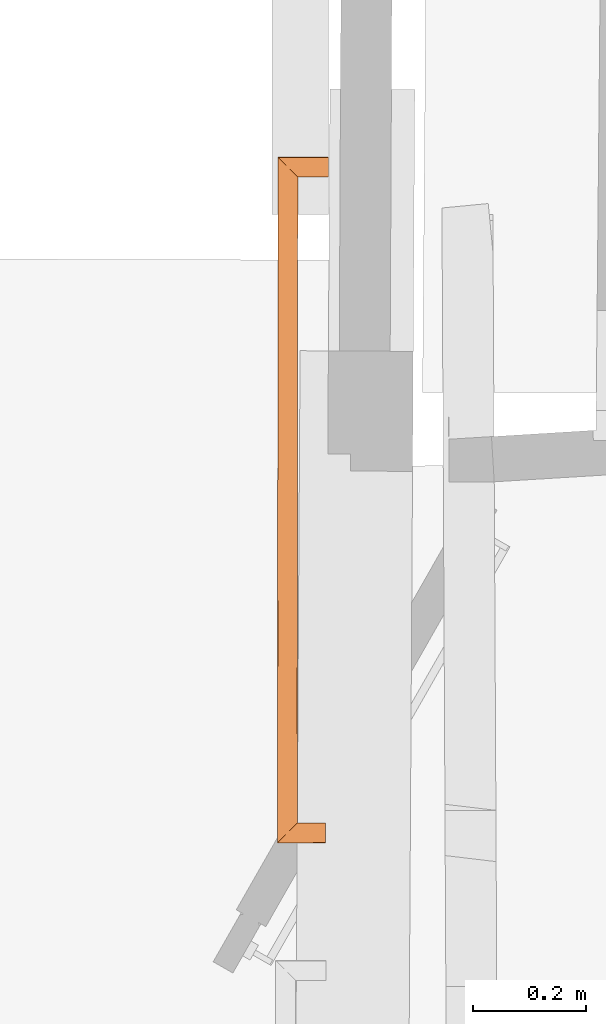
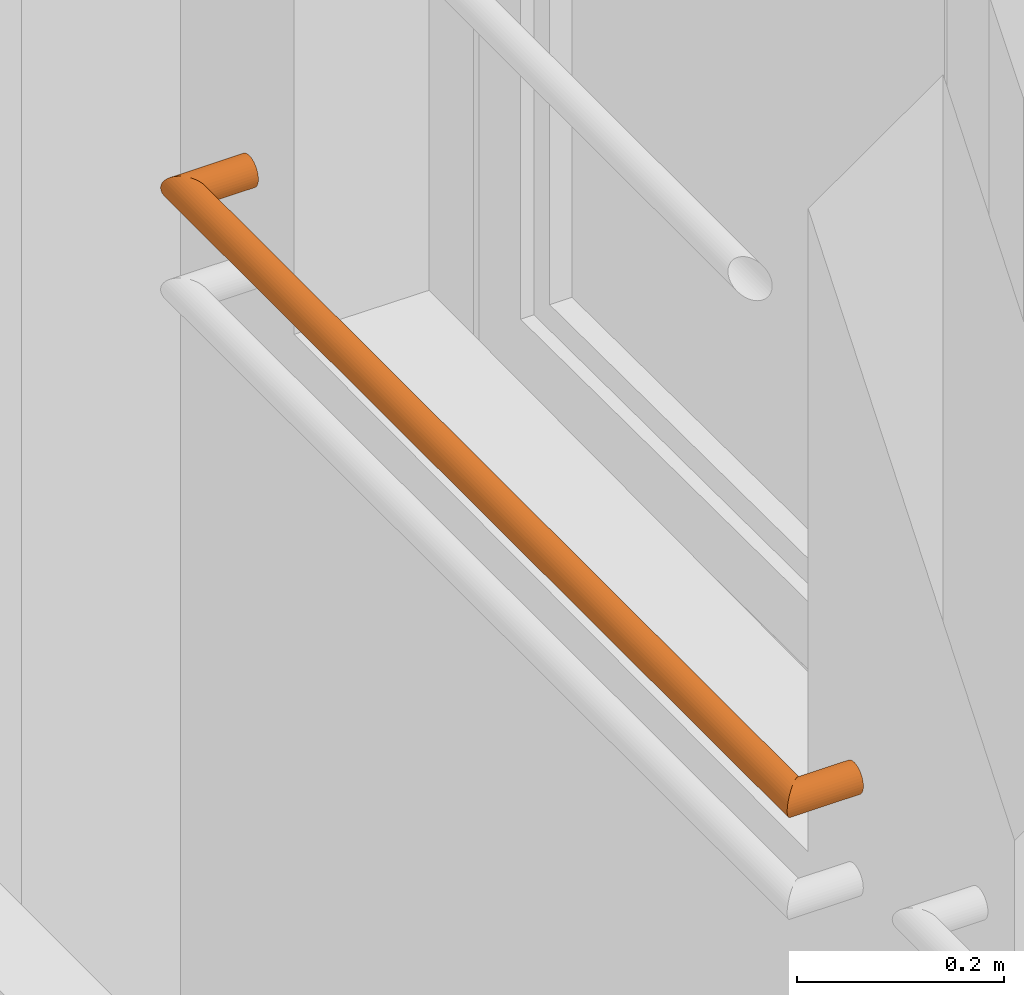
# One storey, part 92 of 97: 1 proxy.
"""IFC2X3 building model written with IfcOpenShell, lengths in centimetres."""

from ifc_helpers import new_model, entity, si_unit, converted_unit, direction, origin, origin_with_axes, place, context, subcontext, project, spatial, faceted_brep, material, type_object, element, save


model = new_model("IFC2X3")

# Units and contexts
model_context = context("Model", 3, precision=0.0001, world=origin(), true_north=direction((0.225632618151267, 0.974212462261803, 0.0)))
body_context = subcontext(model_context, "Body", "Model", "MODEL_VIEW")
ifc_project = project(units=[si_unit("LENGTHUNIT", "METRE", prefix="CENTI"), si_unit("AREAUNIT", "SQUARE_METRE", prefix="CENTI"), si_unit("VOLUMEUNIT", "CUBIC_METRE", prefix="CENTI"), converted_unit("PLANEANGLEUNIT", "DEGREE", entity("IfcRatioMeasure", 0.0174532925), si_unit("PLANEANGLEUNIT", "RADIAN"), dimensions=[0, 0, 0, 0, 0, 0, 0])], contexts=[model_context])

# Site, building, storey
site_placement = place(None, origin_with_axes())
site = spatial("IfcSite", under=ifc_project, at=site_placement, Name="Default Site", CompositionType="ELEMENT")
building_placement = place(site_placement, origin_with_axes())
building = spatial("IfcBuilding", under=site, at=building_placement, Name="Default Building", CompositionType="ELEMENT")
storey_placement = place(building_placement, origin_with_axes())
storey = spatial("IfcBuildingStorey", under=building, at=storey_placement, Name="Rez-de-chaussée", CompositionType="ELEMENT", Elevation=0.0)

# Proxy
ifc_material = material(Name="Aluminium mat")
building_element_proxy_type = type_object("IfcBuildingElementProxyType", Name="Profil [C] Ø35mm", PredefinedType="NOTDEFINED", material=ifc_material)
proxy_placement = place(storey_placement, origin_with_axes())
element("IfcBuildingElementProxy", 1, at=proxy_placement, inside=storey, type_object=building_element_proxy_type, material=ifc_material, Name="Extrusion (solide) 1702444", context=body_context, shape_type="Brep", body=[
    faceted_brep([(-1369.51942443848, -54.905891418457, 311.999988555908), (-1369.49281692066, -54.8793261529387, 311.696100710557), (-1361.0193252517, -54.8861684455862, 311.696100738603), (-1361.0193252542, -54.9127552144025, 311.999988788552), (-1369.49281692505, -54.8793315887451, 311.696100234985), (-1369.41375733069, -54.8004468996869, 311.401460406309), (-1361.01922989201, -54.8072257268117, 311.401461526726), (-1361.0193252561, -54.8861739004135, 311.696100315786), (-1369.41375732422, -54.8004388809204, 311.401462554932), (-1369.28472518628, -54.6716236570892, 311.124994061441), (-1361.01913451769, -54.6782983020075, 311.12499456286), (-1361.01922988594, -54.8072182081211, 311.401464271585), (-1369.28472518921, -54.6716272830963, 311.124992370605), (-1369.10963058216, -54.4967977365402, 310.875108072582), (-1361.01903915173, -54.503330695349, 310.875107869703), (-1361.01913452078, -54.6783021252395, 311.124992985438), (-1369.10963058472, -54.4968008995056, 310.875105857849), (-1368.89381408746, -54.2812771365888, 310.659407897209), (-1361.0188484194, -54.2876365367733, 310.659408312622), (-1361.01903915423, -54.5033337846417, 310.87510564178), (-1368.89381408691, -54.2812764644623, 310.659408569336), (-1368.64366531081, -54.0315949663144, 310.484438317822), (-1361.01865768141, -54.0377521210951, 310.484438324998), (-1361.01884841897, -54.2876360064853, 310.659408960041), (-1368.64366531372, -54.0315985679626, 310.484433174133), (-1368.36700439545, -53.7553619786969, 310.355517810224), (-1361.01837158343, -53.7612932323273, 310.355516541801), (-1361.01865768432, -54.0377557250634, 310.484433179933), (-1368.36700439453, -53.7553608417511, 310.355520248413), (-1368.07212829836, -53.4609467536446, 310.276568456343), (-1361.01818084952, -53.4666448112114, 310.276569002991), (-1361.01837158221, -53.7612917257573, 310.355519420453), (-1368.0721282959, -53.4609436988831, 310.276579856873), (-1367.76800155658, -53.1573059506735, 310.249993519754), (-1361.01789474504, -53.1627597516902, 310.249993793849), (-1361.01818084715, -53.4666418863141, 310.27658004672), (-1367.7680015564, -53.1573057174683, 310.249996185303), (-1367.46387481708, -52.8536679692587, 310.276582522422), (-1361.01770401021, -52.8588714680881, 310.276582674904), (-1361.01789474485, -53.162759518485, 310.249995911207), (-1367.46387481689, -52.8536677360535, 310.276579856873), (-1367.16899872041, -52.5592592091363, 310.355530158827), (-1361.01741790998, -52.5642244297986, 310.355530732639), (-1361.0177040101, -52.858871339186, 310.276580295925), (-1367.16899871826, -52.5592565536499, 310.355520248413), (-1366.89224243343, -52.283015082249, 310.484437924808), (-1361.01722717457, -52.2877595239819, 310.48443773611), (-1361.01741790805, -52.5642220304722, 310.355521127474), (-1366.89224243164, -52.2830128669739, 310.484433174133), (-1366.64218902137, -52.0333353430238, 310.659400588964), (-1361.01703643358, -52.0378773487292, 310.659400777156), (-1361.01722717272, -52.2877572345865, 310.484432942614), (-1366.64218902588, -52.0333409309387, 310.659408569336), (-1366.42627716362, -51.817814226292, 310.875109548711), (-1361.01684570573, -51.8221827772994, 310.875109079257), (-1361.01703643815, -52.0378830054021, 310.659408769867), (-1366.42627716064, -51.8178105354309, 310.875105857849), (-1366.25118255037, -51.6429829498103, 311.124987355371), (-1361.01665496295, -51.647209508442, 311.124987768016), (-1361.01684570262, -51.8221789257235, 310.8751054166), (-1366.25118255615, -51.6429901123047, 311.124992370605), (-1366.12215042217, -51.5141738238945, 311.401463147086), (-1361.01655960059, -51.5182968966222, 311.401462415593), (-1361.01665496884, -51.6472168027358, 311.124992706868), (-1366.12215042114, -51.5141725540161, 311.401462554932), (-1366.04318618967, -51.435288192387, 311.69610087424), (-1361.01655960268, -51.4393471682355, 311.696100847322), (-1361.01655959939, -51.5182954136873, 311.401462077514), (-1366.04318618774, -51.4352858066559, 311.696100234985), (-1366.0165786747, -51.4087204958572, 311.999988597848), (-1361.01646423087, -51.4127580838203, 311.999988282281), (-1361.01655960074, -51.4393447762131, 311.696100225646), (-1366.01657867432, -51.4087200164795, 311.999988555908), (-1366.04318618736, -51.4352853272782, 312.303876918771), (-1361.01655960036, -51.4393442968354, 312.303876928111), (-1361.01646423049, -51.4127576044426, 311.999988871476), (-1366.04318618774, -51.4352858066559, 312.303876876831), (-1366.12215041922, -51.514170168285, 312.59851519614), (-1361.01655959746, -51.5182930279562, 312.598515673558), (-1361.01655960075, -51.4393447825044, 312.303876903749), (-1366.12215042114, -51.5141725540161, 312.598514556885), (-1366.25118255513, -51.6429888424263, 312.874985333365), (-1361.01665496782, -51.6472155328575, 312.874984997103), (-1361.01655959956, -51.5182956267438, 312.598515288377), (-1366.25118255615, -51.6429901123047, 312.874984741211), (-1366.42627716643, -51.8178176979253, 313.124866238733), (-1361.0168457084, -51.8221860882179, 313.124866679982), (-1361.01665496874, -51.6472166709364, 312.874984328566), (-1366.42627716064, -51.8178105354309, 313.124871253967), (-1366.6421890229, -52.0333372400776, 313.340572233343), (-1361.01703643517, -52.037879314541, 313.340572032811), (-1361.01684570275, -51.8221790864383, 313.124871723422), (-1366.64218902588, -52.0333409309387, 313.34056854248), (-1366.89224243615, -52.2830184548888, 313.515535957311), (-1361.01722717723, -52.2877628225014, 313.51553618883), (-1361.01703643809, -52.0378829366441, 313.340568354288), (-1366.89224243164, -52.2830128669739, 313.515543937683), (-1367.16899871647, -52.5592543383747, 313.644461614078), (-1361.01741790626, -52.564219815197, 313.644460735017), (-1361.01722717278, -52.2877573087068, 313.515544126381), (-1367.16899871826, -52.5592565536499, 313.644456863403), (-1367.46387481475, -52.8536650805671, 313.723407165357), (-1361.01770400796, -52.8588686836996, 313.723406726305), (-1361.01741790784, -52.5642217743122, 313.644456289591), (-1367.46387481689, -52.8536677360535, 313.723397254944), (-1367.76800155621, -53.157305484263, 313.749983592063), (-1361.01789474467, -53.1627592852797, 313.749983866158), (-1361.01770401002, -52.8588712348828, 313.723397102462), (-1367.7680015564, -53.1573057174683, 313.749980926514), (-1368.07212829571, -53.4609434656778, 313.723394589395), (-1361.01818084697, -53.4666416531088, 313.723394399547), (-1361.01789474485, -53.162759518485, 313.749980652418), (-1368.0721282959, -53.4609436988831, 313.723397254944), (-1368.36700439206, -53.7553577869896, 313.644445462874), (-1361.01837157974, -53.7612886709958, 313.644446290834), (-1361.01818084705, -53.4666417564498, 313.723396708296), (-1368.36700439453, -53.7553608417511, 313.644456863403), (-1368.6436653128, -54.0315974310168, 313.515541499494), (-1361.01865768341, -54.0377545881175, 313.515541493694), (-1361.01837158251, -53.7612920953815, 313.644458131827), (-1368.64366531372, -54.0315985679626, 313.515543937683), (-1368.89381408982, -54.2812800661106, 313.340573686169), (-1361.01884842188, -54.2876396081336, 313.340573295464), (-1361.01865768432, -54.0377557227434, 313.515543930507), (-1368.89381408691, -54.2812764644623, 313.34056854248), (-1369.10963058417, -54.4968002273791, 313.124870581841), (-1361.01903915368, -54.5033331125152, 313.124870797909), (-1361.01884841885, -54.2876358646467, 313.340568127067), (-1369.10963058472, -54.4968008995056, 313.124871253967), (-1369.28472519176, -54.6716304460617, 312.874986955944), (-1361.01913452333, -54.6783052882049, 312.874986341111), (-1361.01903915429, -54.5033338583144, 313.124871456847), (-1369.28472518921, -54.6716272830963, 312.874984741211), (-1369.41375732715, -54.8004425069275, 312.59851624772), (-1361.01922988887, -54.8072218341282, 312.598514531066), (-1361.01913452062, -54.6783019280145, 312.874984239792), (-1369.41375732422, -54.8004388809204, 312.598514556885), (-1369.49281691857, -54.8793235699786, 312.303874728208), (-1361.01932524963, -54.886165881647, 312.303874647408), (-1361.01922988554, -54.8072177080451, 312.598513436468), (-1369.49281692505, -54.8793315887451, 312.303876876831), (-1369.51942444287, -54.9058968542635, 311.99998903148), (-1361.01932525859, -54.912760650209, 311.999988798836), (-1361.01932525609, -54.8861738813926, 312.303876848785), (-1369.42157745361, 66.2886023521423, 311.999988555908), (-1369.39501181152, 66.2620127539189, 311.696096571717), (-1369.49283286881, -54.8793315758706, 311.696098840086), (-1369.51944110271, -54.9058914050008, 311.999987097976), (-1369.39496994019, 66.262012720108, 311.696100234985), (-1369.31608676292, 66.1830663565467, 311.401466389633), (-1369.41377767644, -54.8004388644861, 311.401457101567), (-1369.49279254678, -54.8793316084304, 311.696106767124), (-1369.31610107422, 66.183066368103, 311.401462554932), (-1369.18728045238, 66.0541474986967, 311.124982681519), (-1369.2847622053, -54.6716272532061, 311.124975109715), (-1369.41378783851, -54.8004388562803, 311.401448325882), (-1369.18725967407, 66.0541474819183, 311.124992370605), (-1369.0124359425, 65.8791780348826, 310.875116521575), (-1369.10963107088, -54.496800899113, 310.875105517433), (-1369.28473845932, -54.6716272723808, 311.124983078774), (-1369.01245117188, 65.8791780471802, 310.875105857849), (-1368.79692438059, 65.6634807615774, 310.659404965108), (-1368.89379835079, -54.2812764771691, 310.65942430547), (-1369.1096422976, -54.4968008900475, 310.875094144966), (-1368.79692077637, 65.663480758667, 310.659408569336), (-1368.5472432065, 65.4136002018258, 310.484441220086), (-1368.64367111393, -54.031598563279, 310.484424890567), (-1368.89380135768, -54.2812764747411, 310.659426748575), (-1368.54724884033, 65.4136002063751, 310.484433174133), (-1368.27097795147, 65.1371359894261, 310.355501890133), (-1368.36700758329, -53.7553608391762, 310.355513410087), (-1368.64367152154, -54.0315985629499, 310.484419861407), (-1368.27096939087, 65.1371359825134, 310.355520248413), (-1367.97657197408, 64.8424863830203, 310.276572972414), (-1368.07212820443, -53.4609436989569, 310.276580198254), (-1368.36700238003, -53.7553608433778, 310.355527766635), (-1367.97657012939, 64.8424863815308, 310.276579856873), (-1367.67292054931, 64.5386040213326, 310.249992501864), (-1367.7680015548, -53.1573057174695, 310.24999620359), (-1368.07212807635, -53.4609436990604, 310.276582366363), (-1367.67292022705, 64.5386040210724, 310.249996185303), (-1367.369270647, 64.2347157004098, 310.27658354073), (-1367.46387471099, -52.853667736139, 310.276578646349), (-1367.76800123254, -53.1573057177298, 310.249992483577), (-1367.36927032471, 64.2347157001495, 310.276579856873), (-1367.07487290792, 63.9400661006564, 310.355527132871), (-1367.16899686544, -52.559256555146, 310.3555133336), (-1367.46387104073, -52.8536677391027, 310.276565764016), (-1367.07487106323, 63.9400660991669, 310.355520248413), (-1366.7986785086, 63.6636018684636, 310.484415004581), (-1366.89224658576, -52.2830128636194, 310.484442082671), (-1367.1689888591, -52.5592565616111, 310.355499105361), (-1366.7986869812, 63.6636018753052, 310.484433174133), (-1366.54900941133, 63.413721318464, 310.659400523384), (-1366.64219943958, -52.0333409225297, 310.659423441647), (-1366.89226568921, -52.2830128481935, 310.484466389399), (-1366.54901504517, 63.4137213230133, 310.659408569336), (-1366.33348825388, 63.1980240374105, 310.875109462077), (-1366.42632178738, -51.8178104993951, 310.875150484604), (-1366.64221342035, -52.0333409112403, 310.659432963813), (-1366.33348464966, 63.1980240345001, 310.875105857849), (-1366.15862953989, 63.0230605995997, 311.12502651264), (-1366.25122482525, -51.6429900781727, 311.125021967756), (-1366.42633221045, -51.8178104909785, 310.875144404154), (-1366.15858078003, 63.0230605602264, 311.124992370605), (-1366.02977719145, 62.8941416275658, 311.401435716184), (-1366.12214896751, -51.5141725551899, 311.401461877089), (-1366.25117460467, -51.6429901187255, 311.124988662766), (-1366.02983474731, 62.8941416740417, 311.401462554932), (-1365.95095157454, 62.8151893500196, 311.696096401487), (-1366.04320567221, -51.4352857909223, 311.696105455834), (-1366.12221414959, -51.5141725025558, 311.401479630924), (-1365.95096588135, 62.8151893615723, 311.696100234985), (-1365.92440023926, 62.7885997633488, 311.999992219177), (-1366.01661389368, -51.4087199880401, 311.999991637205), (-1366.04322213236, -51.4352857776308, 311.696103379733), (-1365.92435836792, 62.788599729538, 311.999988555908), (-1365.95092401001, 62.8151893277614, 312.3038805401), (-1366.04318026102, -51.4352858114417, 312.303877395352), (-1366.01657202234, -51.4087200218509, 311.999989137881), (-1365.95096588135, 62.8151893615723, 312.303876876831), (-1366.02984905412, 62.8941416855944, 312.598510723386), (-1366.1222284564, -51.5141724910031, 312.598493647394), (-1366.04321997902, -51.4352857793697, 312.303867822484), (-1366.02983474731, 62.8941416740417, 312.598514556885), (-1366.15863833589, 63.0230606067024, 312.874957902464), (-1366.25123216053, -51.6429900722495, 312.874961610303), (-1366.12220652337, -51.5141725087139, 312.59848839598), (-1366.15858078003, 63.0230605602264, 312.874984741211), (-1366.3334358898, 63.1980239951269, 313.124905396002), (-1366.42628345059, -51.8178105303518, 313.124866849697), (-1366.25117606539, -51.6429901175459, 312.874989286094), (-1366.33348464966, 63.1980240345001, 313.124871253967), (-1366.54901144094, 63.4137213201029, 313.340572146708), (-1366.64220981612, -52.0333409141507, 313.340547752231), (-1366.42631818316, -51.8178105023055, 313.12483023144), (-1366.54901504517, 63.4137213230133, 313.34056854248), (-1366.79869261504, 63.6636018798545, 313.515535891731), (-1366.89227132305, -52.2830128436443, 313.515502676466), (-1366.64220507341, -52.0333409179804, 313.340545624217), (-1366.7986869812, 63.6636018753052, 313.515543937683), (-1367.07487953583, 63.9400661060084, 313.644438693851), (-1367.1689973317, -52.5592565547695, 313.644459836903), (-1366.89225505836, -52.2830128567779, 313.515516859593), (-1367.07487106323, 63.9400660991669, 313.644456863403), (-1367.36926848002, 64.23471569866, 313.723404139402), (-1367.46386919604, -52.8536677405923, 313.723418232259), (-1367.16899502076, -52.5592565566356, 313.644470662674), (-1367.36927032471, 64.2347157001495, 313.723397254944), (-1367.67291990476, 64.5386040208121, 313.749984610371), (-1367.76800091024, -53.15730571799, 313.749988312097), (-1367.46387438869, -52.8536677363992, 313.723402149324), (-1367.67292022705, 64.5386040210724, 313.749980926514), (-1367.97656980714, 64.8424863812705, 313.723393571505), (-1368.07212775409, -53.4609436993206, 313.723391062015), (-1367.76800123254, -53.1573057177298, 313.749977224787), (-1367.97657012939, 64.8424863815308, 313.723397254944), (-1368.27096754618, 65.1371359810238, 313.644449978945), (-1368.36700053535, -53.7553608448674, 313.644442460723), (-1368.07212635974, -53.4609437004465, 313.723390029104), (-1368.27096939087, 65.1371359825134, 313.644456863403), (-1368.54724027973, 65.4136001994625, 313.515525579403), (-1368.64366296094, -54.0315985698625, 313.515538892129), (-1368.36699902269, -53.7553608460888, 313.644445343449), (-1368.54724884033, 65.4136002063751, 313.515543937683), (-1368.7969264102, 65.6634807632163, 313.340576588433), (-1368.89380699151, -54.2812764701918, 313.340558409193), (-1368.64367674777, -54.0315985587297, 313.515560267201), (-1368.79692077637, 65.663480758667, 313.34056854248), (-1369.01244756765, 65.8791780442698, 313.12486764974), (-1369.10963869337, -54.4968008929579, 313.124879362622), (-1368.89379474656, -54.2812764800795, 313.340549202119), (-1369.01245117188, 65.8791780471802, 313.124871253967), (-1369.18727490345, 66.054147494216, 312.874995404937), (-1369.28475368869, -54.6716272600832, 312.875004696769), (-1369.10964630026, -54.4968008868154, 313.12488225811), (-1369.18725967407, 66.0541474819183, 312.874984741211), (-1369.31608029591, 66.1830663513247, 312.598504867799), (-1369.4137670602, -54.8004388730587, 312.598519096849), (-1369.28474142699, -54.6716272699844, 312.874992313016), (-1369.31610107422, 66.183066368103, 312.598514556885), (-1369.39498425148, 66.2620127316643, 312.303880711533), (-1369.49280685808, -54.8793315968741, 312.303874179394), (-1369.41379198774, -54.8004388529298, 312.598523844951), (-1369.39496994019, 66.262012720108, 312.303876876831), (-1369.42153558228, 66.2886023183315, 311.99998489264), (-1369.51939923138, -54.9058914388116, 311.999986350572), (-1369.49279099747, -54.8793316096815, 312.303874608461), (-1360.53152084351, 66.2886023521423, 311.999988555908), (-1360.53152084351, 66.2620155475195, 311.696099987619), (-1369.39496994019, 66.2620155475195, 311.696099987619), (-1360.53152084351, 66.262012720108, 311.696100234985), (-1360.53152084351, 66.183064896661, 311.401462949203), (-1369.31610107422, 66.1830648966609, 311.401462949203), (-1360.53152084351, 66.183066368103, 311.401462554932), (-1360.53152084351, 66.0541464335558, 311.124992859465), (-1369.18725967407, 66.0541464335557, 311.124992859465), (-1360.53152084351, 66.0541474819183, 311.124992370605), (-1360.53152084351, 65.8791760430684, 310.875107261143), (-1369.01245117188, 65.8791760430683, 310.875107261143), (-1369.18725967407, 66.0541474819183, 311.124992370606), (-1360.53152084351, 65.8791780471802, 310.875105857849), (-1360.53152084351, 65.663480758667, 310.659408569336), (-1368.79692077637, 65.6634807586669, 310.659408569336), (-1369.01245117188, 65.8791780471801, 310.875105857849), (-1360.53152084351, 65.4135968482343, 310.484437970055), (-1368.54724884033, 65.4135968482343, 310.484437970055), (-1360.53152084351, 65.4136002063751, 310.484433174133), (-1360.53152084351, 65.1371376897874, 310.355516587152), (-1368.27096939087, 65.1371376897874, 310.355516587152), (-1360.53152084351, 65.1371359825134, 310.355520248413), (-1360.53152084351, 64.8424890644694, 310.276569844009), (-1367.97657012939, 64.8424890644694, 310.276569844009), (-1360.53152084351, 64.8424863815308, 310.276579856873), (-1360.53152084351, 64.5386042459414, 310.249993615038), (-1367.67292022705, 64.5386042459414, 310.249993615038), (-1360.53152084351, 64.5386040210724, 310.249996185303), (-1360.53152084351, 64.234715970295, 310.276582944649), (-1367.36927032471, 64.234715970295, 310.276582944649), (-1360.53152084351, 64.2347157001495, 310.276579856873), (-1360.53152084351, 63.9400687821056, 310.355530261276), (-1367.07487106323, 63.9400687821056, 310.355530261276), (-1367.36927032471, 64.2347157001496, 310.276579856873), (-1360.53152084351, 63.9400660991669, 310.355520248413), (-1360.53152084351, 63.6636035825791, 310.484436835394), (-1366.7986869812, 63.6636035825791, 310.484436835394), (-1360.53152084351, 63.6636018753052, 310.484433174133), (-1360.53152084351, 63.4137179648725, 310.659403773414), (-1366.54901504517, 63.4137179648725, 310.659403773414), (-1360.53152084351, 63.4137213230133, 310.659408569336), (-1360.53152084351, 63.1980240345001, 310.875105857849), (-1360.53152084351, 63.023054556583, 311.124988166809), (-1366.15858078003, 63.023054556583, 311.124988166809), (-1366.33348464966, 63.1980240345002, 310.875105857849), (-1360.53152084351, 63.0230605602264, 311.124992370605), (-1360.53152084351, 62.8941406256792, 311.401462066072), (-1366.02983474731, 62.8941406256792, 311.401462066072), (-1366.15858078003, 63.0230605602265, 311.124992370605), (-1360.53152084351, 62.8941416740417, 311.401462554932), (-1360.53152084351, 62.8151934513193, 311.69610133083), (-1365.95096588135, 62.8151934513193, 311.69610133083), (-1360.53152084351, 62.8151893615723, 311.696100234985), (-1360.53152084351, 62.7886025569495, 311.999988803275), (-1365.92435836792, 62.7886025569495, 311.999988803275), (-1360.53152084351, 62.788599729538, 311.999988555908), (-1360.53152084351, 62.8151865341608, 312.303877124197), (-1365.95096588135, 62.8151865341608, 312.303877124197), (-1360.53152084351, 62.8151893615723, 312.303876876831), (-1360.53152084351, 62.8941375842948, 312.598515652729), (-1366.02983474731, 62.8941375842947, 312.598515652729), (-1365.95096588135, 62.8151893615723, 312.303876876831), (-1360.53152084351, 62.8941416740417, 312.598514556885), (-1360.53152084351, 63.023061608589, 312.874984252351), (-1366.15858078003, 63.023061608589, 312.874984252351), (-1366.02983474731, 62.8941416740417, 312.598514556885), (-1360.53152084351, 63.0230605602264, 312.874984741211), (-1360.53152084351, 63.1980300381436, 313.124867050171), (-1366.33348464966, 63.1980300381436, 313.124867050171), (-1360.53152084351, 63.1980240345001, 313.124871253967), (-1360.53152084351, 63.4137213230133, 313.34056854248), (-1360.53152084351, 63.663605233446, 313.515539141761), (-1366.7986869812, 63.663605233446, 313.515539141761), (-1360.53152084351, 63.6636018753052, 313.515543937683), (-1360.53152084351, 63.9400643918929, 313.644460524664), (-1367.07487106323, 63.9400643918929, 313.644460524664), (-1360.53152084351, 63.9400660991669, 313.644456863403), (-1360.53152084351, 64.2347130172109, 313.723407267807), (-1367.36927032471, 64.2347130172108, 313.723407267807), (-1360.53152084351, 64.2347157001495, 313.723397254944), (-1360.53152084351, 64.5386037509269, 313.74998401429), (-1367.67292022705, 64.5386037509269, 313.74998401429), (-1360.53152084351, 64.5386040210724, 313.749980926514), (-1360.53152084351, 64.8424861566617, 313.723394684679), (-1367.97657012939, 64.8424861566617, 313.723394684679), (-1360.53152084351, 64.8424863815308, 313.723397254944), (-1360.53152084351, 65.1371332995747, 313.64444685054), (-1368.27096939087, 65.1371332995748, 313.64444685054), (-1360.53152084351, 65.1371359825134, 313.644456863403), (-1360.53152084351, 65.4135984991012, 313.515540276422), (-1368.54724884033, 65.4135984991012, 313.515540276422), (-1368.27096939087, 65.1371359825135, 313.644456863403), (-1360.53152084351, 65.4136002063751, 313.515543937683), (-1360.53152084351, 65.6634841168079, 313.340573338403), (-1368.79692077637, 65.6634841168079, 313.340573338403), (-1368.54724884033, 65.4136002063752, 313.515543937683), (-1360.53152084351, 65.663480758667, 313.34056854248), (-1360.53152084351, 65.8791780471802, 313.124871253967), (-1368.79692077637, 65.6634807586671, 313.340568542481), (-1360.53152084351, 66.0541494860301, 312.874986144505), (-1369.18725967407, 66.0541494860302, 312.874986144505), (-1360.53152084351, 66.0541474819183, 312.874984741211), (-1360.53152084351, 66.1830674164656, 312.598515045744), (-1369.31610107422, 66.1830674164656, 312.598515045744), (-1369.18725967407, 66.0541474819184, 312.874984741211), (-1360.53152084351, 66.183066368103, 312.598514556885), (-1360.53152084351, 66.2620141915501, 312.303877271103), (-1369.39496994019, 66.2620141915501, 312.303877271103), (-1369.31610107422, 66.1830663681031, 312.598514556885), (-1360.53152084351, 66.262012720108, 312.303876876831), (-1360.53152084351, 66.2885995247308, 311.999988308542), (-1369.42157745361, 66.2885995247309, 311.999988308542), (-1361.01932525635, -54.9127578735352, 311.999988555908), (-1361.01930379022, -54.8861742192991, 311.696100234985), (-1361.01924003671, -54.8072218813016, 311.401462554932), (-1361.01913593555, -54.6783030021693, 311.124992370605), (-1361.01899464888, -54.5033336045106, 310.875105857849), (-1361.01882047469, -54.2876363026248, 310.659408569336), (-1361.01861869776, -54.0377557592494, 310.484433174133), (-1361.01839545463, -53.7612914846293, 310.355520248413), (-1361.018157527, -53.4666419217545, 310.276579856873), (-1361.01791214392, -53.1627595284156, 310.249996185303), (-1361.01766675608, -52.8588712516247, 310.276579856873), (-1361.01742882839, -52.5642216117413, 310.355520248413), (-1361.01720558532, -52.2877574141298, 310.484433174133), (-1361.0170038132, -52.0378828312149, 310.659408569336), (-1361.0168296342, -51.8221795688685, 310.875105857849), (-1361.01668835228, -51.6472160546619, 311.124992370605), (-1361.01658425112, -51.5182971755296, 311.401462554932), (-1361.01652049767, -51.4393449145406, 311.696100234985), (-1361.01649903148, -51.412761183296, 311.999988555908), (-1361.01652049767, -51.4393449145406, 312.303876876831), (-1361.01658425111, -51.5182971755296, 312.598514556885), (-1361.01668835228, -51.6472160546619, 312.874984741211), (-1361.01682963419, -51.8221795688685, 313.124871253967), (-1361.01700381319, -52.0378828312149, 313.34056854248), (-1361.01720558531, -52.2877574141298, 313.515543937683), (-1361.01742882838, -52.5642216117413, 313.644456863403), (-1361.01766675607, -52.8588712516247, 313.723397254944), (-1361.01791214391, -53.1627595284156, 313.749980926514), (-1361.01815752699, -53.4666419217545, 313.723397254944), (-1361.01839545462, -53.7612914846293, 313.644456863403), (-1361.01861869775, -54.0377557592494, 313.515543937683), (-1361.01882047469, -54.2876363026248, 313.34056854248), (-1361.01899464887, -54.5033336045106, 313.124871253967), (-1361.01913593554, -54.6783030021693, 312.874984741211), (-1361.01924003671, -54.8072218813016, 312.598514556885), (-1361.01930379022, -54.8861742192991, 312.303876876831)], [[[0, 1, 2, 3]], [[4, 5, 6, 7]], [[8, 9, 10, 11]], [[12, 13, 14, 15]], [[16, 17, 18, 19]], [[20, 21, 22, 23]], [[24, 25, 26, 27]], [[28, 29, 30, 31]], [[32, 33, 34, 35]], [[36, 37, 38, 39]], [[40, 41, 42, 43]], [[44, 45, 46, 47]], [[48, 49, 50, 51]], [[52, 53, 54, 55]], [[56, 57, 58, 59]], [[60, 61, 62, 63]], [[64, 65, 66, 67]], [[68, 69, 70, 71]], [[72, 73, 74, 75]], [[76, 77, 78, 79]], [[80, 81, 82, 83]], [[84, 85, 86, 87]], [[88, 89, 90, 91]], [[92, 93, 94, 95]], [[96, 97, 98, 99]], [[100, 101, 102, 103]], [[104, 105, 106, 107]], [[108, 109, 110, 111]], [[112, 113, 114, 115]], [[116, 117, 118, 119]], [[120, 121, 122, 123]], [[124, 125, 126, 127]], [[128, 129, 130, 131]], [[132, 133, 134, 135]], [[136, 137, 138, 139]], [[140, 141, 142, 143]], [[144, 145, 146, 147]], [[148, 149, 150, 151]], [[152, 153, 154, 155]], [[156, 157, 158, 159]], [[160, 161, 162, 163]], [[164, 165, 166, 167]], [[168, 169, 170, 171]], [[172, 173, 174, 175]], [[176, 177, 178, 179]], [[180, 181, 182, 183]], [[184, 185, 186, 187]], [[188, 189, 190, 191]], [[192, 193, 194, 195]], [[196, 197, 198, 199]], [[200, 201, 202, 203]], [[204, 205, 206, 207]], [[208, 209, 210, 211]], [[212, 213, 214, 215]], [[216, 217, 218, 219]], [[220, 221, 222, 223]], [[224, 225, 226, 227]], [[228, 229, 230, 231]], [[232, 233, 234, 235]], [[236, 237, 238, 239]], [[240, 241, 242, 243]], [[244, 245, 246, 247]], [[248, 249, 250, 251]], [[252, 253, 254, 255]], [[256, 257, 258, 259]], [[260, 261, 262, 263]], [[264, 265, 266, 267]], [[268, 269, 270, 271]], [[272, 273, 274, 275]], [[276, 277, 278, 279]], [[280, 281, 282, 283]], [[284, 285, 286, 287]], [[288, 289, 290, 144]], [[291, 292, 293, 148]], [[294, 295, 296, 152]], [[297, 298, 299, 300]], [[301, 302, 303, 304]], [[302, 305, 306, 164]], [[307, 308, 309, 168]], [[310, 311, 312, 172]], [[313, 314, 315, 176]], [[316, 317, 318, 180]], [[319, 320, 321, 322]], [[323, 324, 325, 188]], [[326, 327, 328, 192]], [[329, 330, 200, 196]], [[330, 331, 332, 333]], [[334, 335, 336, 337]], [[338, 339, 340, 208]], [[341, 342, 343, 212]], [[344, 345, 346, 216]], [[347, 348, 349, 350]], [[351, 352, 353, 354]], [[355, 356, 357, 228]], [[358, 359, 236, 232]], [[359, 360, 361, 236]], [[362, 363, 364, 240]], [[365, 366, 367, 244]], [[368, 369, 370, 248]], [[371, 372, 373, 252]], [[374, 375, 376, 256]], [[377, 378, 379, 380]], [[381, 382, 383, 384]], [[385, 386, 272, 387]], [[386, 388, 389, 272]], [[390, 391, 392, 393]], [[394, 395, 396, 397]], [[398, 399, 400, 284]], [[401, 402, 403, 404, 405, 406, 407, 408, 409, 410, 411, 412, 413, 414, 415, 416, 417, 418, 419, 420, 421, 422, 423, 424, 425, 426, 427, 428, 429, 430, 431, 432, 433, 434, 435, 436]], [[398, 394, 390, 386, 385, 381, 377, 374, 371, 368, 365, 362, 359, 358, 355, 351, 347, 344, 341, 338, 334, 330, 329, 326, 323, 319, 316, 313, 310, 307, 302, 301, 297, 294, 291, 288]]]),
])

save(model, "model.ifc")
